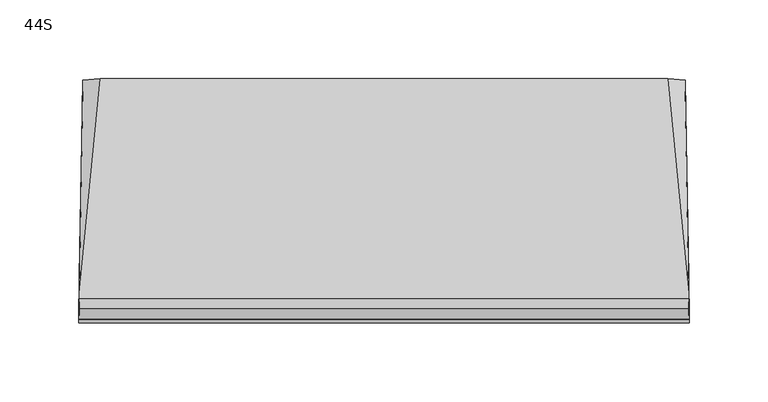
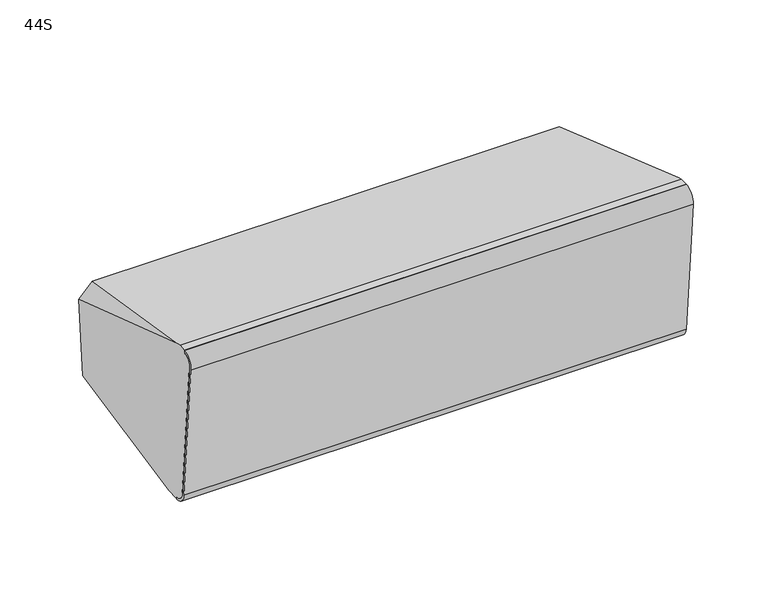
"""IFC4 building model written with IfcOpenShell, lengths in millimetres: proxy geometry, d&b xS-Series 44S Point Source : 44S."""

from ifc_helpers import new_model, si_unit, frame, origin, place, context, project, spatial, polyline, circle_curve, ellipse_curve, source, transform, mapped, element, save
from ifc_brep_helpers import plane_surface, cylinder_surface, revolved_surface, advanced_brep


def proxy_44s_00a346c1(model_context):
    return source(origin(), model_context, "Body", "AdvancedBrep", [
        advanced_brep(
        [(-193.2924342, -60.1708825, -69.5087397), (-193.2924342, -60.3414006, -67.5597089), (-193.4294708, -68.97039, -60.3191271), (-193.4294708, -78.3900458, 47.3480309), (-193.2918337, -71.1177341, 56.0148344), (-193.2918337, -71.2920456, 58.0072238), (-193.1898069, -65.3844214, 58.524074), (-193.132384, -61.9536331, 57.6051002), (-190.8800877, 73.551062, 10.8276942), (-191.0574064, 68.3781553, -48.2989), (-193.132384, -50.9035477, -68.697953), (193.2924342, -60.3414006, -67.5597089), (193.2924342, -60.1708825, -69.5087397), (193.132384, -50.9035477, -68.697953), (191.0574064, 68.3781553, -48.2989), (190.8800877, 73.551062, 10.8276942), (193.132384, -61.9536331, 57.6051002), (193.1898069, -65.3844214, 58.524074), (193.2918337, -71.2920456, 58.0072238), (193.2918337, -71.1177341, 56.0148344), (193.4294708, -78.3900458, 47.3480309), (193.4294708, -68.97039, -60.3191271), (-181.3061997, 67.4997599, -58.3390058), (181.3061997, 67.4997599, -58.3390058), (179.9289467, 74.4470346, 21.0687075), (-179.9289467, 74.4470346, 21.0687075), (-138.5, 72.1064219, -5.6846181), (-138.5, 69.8403726, -31.5856802), (-128.5, 68.9688151, -41.5476272), (-51.5, 68.9688151, -41.5476272), (-41.5, 69.8403726, -31.5856802), (-41.5, 72.1064219, -5.6846181), (-51.5, 72.9779793, 4.2773289), (-128.5, 72.9779793, 4.2773289), (-138.5, 67.1254484, -5.2488394), (-128.5, 67.9970058, 4.7131076), (-51.5, 67.9970058, 4.7131076), (-41.5, 67.1254484, -5.2488394), (-41.5, 64.8593991, -31.1499015), (-51.5, 63.9878417, -41.1118485), (-128.5, 63.9878417, -41.1118485), (-138.5, 64.8593991, -31.1499015)],
        [
            (0, 1),
            (1, 2, ellipse_curve(frame((-193.2924342, -61.0356044, -59.6249233), z_axis=(-0.999852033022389, 0.017136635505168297, 0.0014992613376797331), x_axis=(-0.017202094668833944, -0.9960472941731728, -0.08714284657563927)), 7.9662739, 7.9650952)),
            (2, 3),
            (3, 4, ellipse_curve(frame((-193.2918337, -70.4204882, 48.0452768), z_axis=(-0.999852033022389, 0.017136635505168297, 0.0014992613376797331), x_axis=(-0.017202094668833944, -0.9960472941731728, -0.08714284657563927)), 8.0011839, 8.0)),
            (4, 5),
            (5, 6),
            (6, 7),
            (7, 8),
            (8, 9),
            (9, 10),
            (10, 0),
            (11, 12),
            (12, 13),
            (13, 14),
            (14, 15),
            (15, 16),
            (16, 17),
            (17, 18),
            (18, 19),
            (19, 20, ellipse_curve(frame((193.2918337, -70.4204882, 48.0452768), z_axis=(0.9998520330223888, 0.017136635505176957, 0.0014992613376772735), x_axis=(-0.017202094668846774, 0.99604729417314, 0.0871428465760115)), 8.0011839, 8.0)),
            (20, 21),
            (21, 11, ellipse_curve(frame((193.2924342, -61.0356044, -59.6249233), z_axis=(0.9998520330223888, 0.017136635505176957, 0.0014992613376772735), x_axis=(-0.017202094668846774, 0.99604729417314, 0.0871428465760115)), 7.9662739, 7.9650952)),
            (0, 12),
            (11, 1),
            (21, 2),
            (20, 3),
            (19, 4),
            (18, 5),
            (17, 6),
            (10, 22),
            (22, 23),
            (23, 13),
            (16, 24),
            (24, 25),
            (25, 7),
            (9, 22),
            (23, 14),
            (15, 24),
            (25, 8),
            (26, 27),
            (27, 28, circle_curve(frame((-128.5, 69.8403726, -31.5856802), z_axis=(0.0, -0.9961946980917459, 0.08715574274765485), x_axis=(0.0, 0.08715574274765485, 0.9961946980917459)), 10.0)),
            (28, 29),
            (29, 30, circle_curve(frame((-51.5, 69.8403726, -31.5856802), z_axis=(0.0, -0.9961946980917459, 0.08715574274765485), x_axis=(0.0, 0.08715574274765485, 0.9961946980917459)), 10.0)),
            (30, 31),
            (31, 32, circle_curve(frame((-51.5, 72.1064219, -5.6846181), z_axis=(0.0, -0.9961946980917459, 0.08715574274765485), x_axis=(0.0, 0.08715574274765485, 0.9961946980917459)), 10.0)),
            (32, 33),
            (33, 26, circle_curve(frame((-128.5, 72.1064219, -5.6846181), z_axis=(0.0, -0.9961946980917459, 0.08715574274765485), x_axis=(0.0, 0.08715574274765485, 0.9961946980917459)), 10.0)),
            (34, 35, circle_curve(frame((-128.5, 67.1254484, -5.2488394), z_axis=(0.0, 0.9961946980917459, -0.08715574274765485), x_axis=(0.0, 0.08715574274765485, 0.9961946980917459)), 10.0)),
            (35, 36),
            (36, 37, circle_curve(frame((-51.5, 67.1254484, -5.2488394), z_axis=(0.0, 0.9961946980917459, -0.08715574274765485), x_axis=(0.0, 0.08715574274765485, 0.9961946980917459)), 10.0)),
            (37, 38),
            (38, 39, circle_curve(frame((-51.5, 64.8593991, -31.1499015), z_axis=(0.0, 0.9961946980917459, -0.08715574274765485), x_axis=(0.0, 0.08715574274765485, 0.9961946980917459)), 10.0)),
            (39, 40),
            (40, 41, circle_curve(frame((-128.5, 64.8593991, -31.1499015), z_axis=(0.0, 0.9961946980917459, -0.08715574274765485), x_axis=(0.0, 0.08715574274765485, 0.9961946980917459)), 10.0)),
            (41, 34),
            (41, 27),
            (26, 34),
            (40, 28),
            (39, 29),
            (38, 30),
            (37, 31),
            (36, 32),
            (35, 33),
        ],
        [
            plane_surface(frame((-193.8309972, -105.6486643, 91.1389233), z_axis=(-0.999852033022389, 0.017136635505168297, 0.0014992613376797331), x_axis=(0.0, 0.08715574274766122, -0.9961946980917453))),
            plane_surface(frame((190.7119283, 74.9537717, 106.9395891), z_axis=(0.9998520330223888, 0.017136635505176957, 0.0014992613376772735), x_axis=(0.0, 0.08715574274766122, -0.9961946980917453))),
            plane_surface(frame((-207.1452552, -60.1708825, -69.5087397), z_axis=(0.0, -0.9961946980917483, -0.08715574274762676), x_axis=(1.0, 0.0, 0.0))),
            cylinder_surface(frame((207.1452552, -61.0356044, -59.6249233), z_axis=(-1.0, 0.0, 0.0), x_axis=(0.0, 0.08715574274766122, -0.9961946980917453)), 7.9650952),
            plane_surface(frame((-207.1452552, -68.97039, -60.3191271), z_axis=(0.0, -0.996194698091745, -0.08715574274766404), x_axis=(1.0, 0.0, 0.0))),
            cylinder_surface(frame((207.1452552, -70.4204882, 48.0452768), z_axis=(-1.0, 0.0, 0.0), x_axis=(0.0, 0.08715574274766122, -0.9961946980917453)), 8.0),
            plane_surface(frame((-207.1452552, -71.1177341, 56.0148344), z_axis=(0.0, -0.9961946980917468, -0.08715574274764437), x_axis=(1.0, 0.0, 0.0))),
            plane_surface(frame((-207.1452552, -71.2920456, 58.0072238), z_axis=(0.0, -0.08715574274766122, 0.9961946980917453), x_axis=(1.0, 0.0, 0.0))),
            plane_surface(frame((-207.1452552, -54.2284863, -68.9888474), z_axis=(0.0, 0.08715574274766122, -0.9961946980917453), x_axis=(1.0, 0.0, 0.0))),
            plane_surface(frame((0.0, 74.4470346, 21.0687075), z_axis=(0.0, 0.2587393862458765, 0.965947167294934), x_axis=(-1.0, 0.0, 0.0))),
            plane_surface(frame((-186.6967137, 80.6989148, -50.3906107), z_axis=(-0.7053631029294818, 0.13139331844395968, -0.6965620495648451), x_axis=(0.7071067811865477, 0.06162841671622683, -0.704416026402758))),
            plane_surface(frame((186.6967137, 80.6989148, -50.3906107), z_axis=(0.7053631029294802, 0.13139331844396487, -0.6965620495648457), x_axis=(0.7071067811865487, -0.061628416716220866, 0.7044160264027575))),
            plane_surface(frame((186.6967137, 75.0368843, 14.326694), z_axis=(0.6719558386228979, 0.2516194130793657, 0.6965364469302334), x_axis=(-0.7071067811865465, -0.06162841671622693, 0.7044160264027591))),
            plane_surface(frame((-186.6967137, 75.0368843, 14.326694), z_axis=(-0.6719558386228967, 0.25161941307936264, 0.6965364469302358), x_axis=(-0.7071067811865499, 0.061628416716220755, -0.7044160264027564))),
            plane_surface(frame((-250.0, 65.9723746, -75.7970998), z_axis=(0.0, 0.9961946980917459, -0.08715574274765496), x_axis=(1.0, 0.0, 0.0))),
            plane_surface(frame((-138.5, 62.5187864, -57.9032271), z_axis=(0.0, 0.9961946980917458, -0.08715574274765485), x_axis=(0.0, -0.08715574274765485, -0.9961946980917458))),
            plane_surface(frame((-138.5, 67.1254484, -5.2488394), z_axis=(1.0, 0.0, 0.0), x_axis=(0.0, 0.9961946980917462, -0.08715574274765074))),
            revolved_surface(polyline([(-128.5, 65.73095652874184, -21.187954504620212), (-128.5, 70.71193002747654, -21.62373321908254)]), (-128.5, 69.8403726, -31.5856802), (0.0, -0.9961946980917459, 0.08715574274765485)),
            plane_surface(frame((-128.5, 63.9878417, -41.1118485), z_axis=(0.0, 0.08715574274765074, 0.9961946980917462), x_axis=(0.0, 0.9961946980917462, -0.08715574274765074))),
            revolved_surface(polyline([(-51.5, 65.73095652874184, -21.187954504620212), (-51.5, 70.71193002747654, -21.62373321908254)]), (-51.5, 69.8403726, -31.5856802), (0.0, -0.9961946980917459, 0.08715574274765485)),
            plane_surface(frame((-41.5, 64.8593991, -31.1499015), z_axis=(-1.0, 0.0, 0.0), x_axis=(0.0, 0.9961946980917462, -0.08715574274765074))),
            revolved_surface(polyline([(-51.5, 67.99700579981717, 4.713107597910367), (-51.5, 72.97797932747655, 4.277328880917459)]), (-51.5, 72.1064219, -5.6846181), (0.0, -0.9961946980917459, 0.08715574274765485)),
            plane_surface(frame((-51.5, 67.9970058, 4.7131076), z_axis=(0.0, -0.08715574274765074, -0.9961946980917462), x_axis=(0.0, 0.9961946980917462, -0.08715574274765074))),
            revolved_surface(polyline([(-128.5, 67.99700579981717, 4.713107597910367), (-128.5, 72.97797932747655, 4.277328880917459)]), (-128.5, 72.1064219, -5.6846181), (0.0, -0.9961946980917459, 0.08715574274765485)),
        ],
        [
            (0, [[1, 2, 3, 4, 5, 6, 7, 8, 9, 10, 11]]),
            (1, [[12, 13, 14, 15, 16, 17, 18, 19, 20, 21, 22]]),
            (2, [[23, -12, 24, -1]]),
            (3, [[-24, -22, 25, -2]]),
            (4, [[-25, -21, 26, -3]]),
            (5, [[-26, -20, 27, -4]]),
            (6, [[-27, -19, 28, -5]]),
            (7, [[-28, -18, 29, -6]]),
            (8, [[-23, -11, 30, 31, 32, -13]]),
            (9, [[-29, -17, 33, 34, 35, -7]]),
            (10, [[-30, -10, 36]]),
            (11, [[-32, 37, -14]]),
            (12, [[-33, -16, 38]]),
            (13, [[-35, 39, -8]]),
            (14, [[-31, -36, -9, -39, -34, -38, -15, -37], [40, 41, 42, 43, 44, 45, 46, 47]]),
            (15, [[48, 49, 50, 51, 52, 53, 54, 55]]),
            (16, [[-55, 56, -40, 57]]),
            (17, [[-54, 58, -41, -56]]),
            (18, [[-53, 59, -42, -58]]),
            (19, [[-52, 60, -43, -59]]),
            (20, [[-51, 61, -44, -60]]),
            (21, [[-50, 62, -45, -61]]),
            (22, [[-49, 63, -46, -62]]),
            (23, [[-48, -57, -47, -63]]),
        ],
    ),
        advanced_brep(
        [(-193.4294708, -78.3900458, 47.3480309), (-193.4294708, -68.97039, -60.3191271), (-193.2924342, -60.3414006, -67.5597089), (-193.2924342, -60.1708825, -69.5087397), (-193.4644806, -71.0043869, -60.4183501), (-193.4644806, -80.4172072, 47.1706772), (-193.2918337, -71.2950878, 58.0419958), (-193.2918337, -71.1177341, 56.0148344), (193.4294708, -68.97039, -60.3191271), (193.4294708, -78.3900458, 47.3480309), (193.2918337, -71.1177341, 56.0148344), (193.2918337, -71.2950878, 58.0419958), (193.4644806, -80.4172072, 47.1706772), (193.4644806, -71.0043869, -60.4183501), (193.2924342, -60.1708825, -69.5087397), (193.2924342, -60.3414006, -67.5597089)],
        [
            (0, 1),
            (1, 2, ellipse_curve(frame((-193.2924342, -61.0356044, -59.6249233), z_axis=(0.999852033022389, -0.017136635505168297, -0.0014992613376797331), x_axis=(0.017202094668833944, 0.9960472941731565, 0.08714284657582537)), 7.9662739, 7.9650952)),
            (2, 3),
            (3, 4, ellipse_curve(frame((-193.2924342, -61.04244, -59.5467927), z_axis=(-0.999852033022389, 0.017136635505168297, 0.0014992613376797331), x_axis=(-0.017202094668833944, -0.9960472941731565, -0.08714284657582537)), 10.0014799, 10.0)),
            (4, 5),
            (5, 6, ellipse_curve(frame((-193.2918337, -70.4204882, 48.0452768), z_axis=(-0.999852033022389, 0.017136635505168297, 0.0014992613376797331), x_axis=(-0.017202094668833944, -0.9960472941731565, -0.08714284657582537)), 10.0363899, 10.0349048)),
            (6, 7),
            (7, 0, ellipse_curve(frame((-193.2918337, -70.4204882, 48.0452768), z_axis=(0.999852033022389, -0.017136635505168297, -0.0014992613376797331), x_axis=(0.017202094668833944, 0.9960472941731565, 0.08714284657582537)), 8.0011839, 8.0)),
            (8, 9),
            (9, 10, ellipse_curve(frame((193.2918337, -70.4204882, 48.0452768), z_axis=(-0.9998520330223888, -0.017136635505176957, -0.0014992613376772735), x_axis=(0.017202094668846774, -0.9960472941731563, -0.0871428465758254)), 8.0011839, 8.0)),
            (10, 11),
            (11, 12, ellipse_curve(frame((193.2918337, -70.4204882, 48.0452768), z_axis=(0.9998520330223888, 0.017136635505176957, 0.0014992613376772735), x_axis=(-0.017202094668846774, 0.9960472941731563, 0.0871428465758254)), 10.0363899, 10.0349048)),
            (12, 13),
            (13, 14, ellipse_curve(frame((193.2924342, -61.04244, -59.5467927), z_axis=(0.9998520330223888, 0.017136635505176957, 0.0014992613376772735), x_axis=(-0.017202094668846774, 0.9960472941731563, 0.0871428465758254)), 10.0014799, 10.0)),
            (14, 15),
            (15, 8, ellipse_curve(frame((193.2924342, -61.0356044, -59.6249233), z_axis=(-0.9998520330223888, -0.017136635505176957, -0.0014992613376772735), x_axis=(0.017202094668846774, -0.9960472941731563, -0.0871428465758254)), 7.9662739, 7.9650952)),
            (0, 9),
            (8, 1),
            (15, 2),
            (14, 3),
            (13, 4),
            (12, 5),
            (11, 6),
            (10, 7),
        ],
        [
            plane_surface(frame((-193.8309972, -105.6486643, 91.1389233), z_axis=(-0.999852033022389, 0.017136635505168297, 0.0014992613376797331), x_axis=(0.0, 0.08715574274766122, -0.9961946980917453))),
            plane_surface(frame((190.7119283, 74.9537717, 106.9395891), z_axis=(0.9998520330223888, 0.017136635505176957, 0.0014992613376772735), x_axis=(0.0, 0.08715574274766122, -0.9961946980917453))),
            plane_surface(frame((-202.5, -78.3900458, 47.3480309), z_axis=(0.0, 0.996194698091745, 0.08715574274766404), x_axis=(1.0, 0.0, 0.0))),
            revolved_surface(polyline([(193.4294708, -61.72980818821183, -51.69013769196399), (-193.4294708, -61.72980818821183, -51.69013769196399)]), (202.5, -61.0356044, -59.6249233), (1.0, 0.0, 0.0)),
            plane_surface(frame((-202.5, -60.3414006, -67.5597089), z_axis=(0.0, 0.9961946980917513, 0.0871557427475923), x_axis=(1.0, 0.0, 0.0))),
            cylinder_surface(frame((202.5, -61.04244, -59.5467927), z_axis=(-1.0, 0.0, 0.0), x_axis=(0.0, -0.08715574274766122, 0.9961946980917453)), 10.0),
            plane_surface(frame((-202.5, -71.0043869, -60.4183501), z_axis=(0.0, -0.996194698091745, -0.08715574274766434), x_axis=(1.0, 0.0, 0.0))),
            cylinder_surface(frame((202.5, -70.4204882, 48.0452768), z_axis=(-1.0, 0.0, 0.0), x_axis=(0.0, -0.08715574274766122, 0.9961946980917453)), 10.0349048),
            plane_surface(frame((-202.5, -71.2950878, 58.0419958), z_axis=(0.0, 0.9961946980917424, 0.08715574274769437), x_axis=(1.0, 0.0, 0.0))),
            revolved_surface(polyline([(193.42947082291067, -71.11773414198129, 56.014834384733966), (-193.42947082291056, -71.11773414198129, 56.014834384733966)]), (202.5, -70.4204882, 48.0452768), (1.0, 0.0, 0.0)),
        ],
        [
            (0, [[1, 2, 3, 4, 5, 6, 7, 8]]),
            (1, [[9, 10, 11, 12, 13, 14, 15, 16]]),
            (2, [[17, -9, 18, -1]]),
            (3, [[-18, -16, 19, -2]]),
            (4, [[-19, -15, 20, -3]]),
            (5, [[-20, -14, 21, -4]]),
            (6, [[-21, -13, 22, -5]]),
            (7, [[-22, -12, 23, -6]]),
            (8, [[-23, -11, 24, -7]]),
            (9, [[-17, -8, -24, -10]]),
        ],
    ),
        advanced_brep(
        [(-193.4294708, -78.3900458, 47.3480309), (-193.4294708, -68.97039, -60.3191271), (-193.2924342, -60.3414006, -67.5597089), (-193.2924342, -60.1708825, -69.5087397), (-193.4644806, -71.0043869, -60.4183501), (-193.4644806, -80.4172072, 47.1706772), (-193.2918337, -71.2950878, 58.0419958), (-193.2918337, -71.1177341, 56.0148344), (193.4294708, -68.97039, -60.3191271), (193.4294708, -78.3900458, 47.3480309), (193.2918337, -71.1177341, 56.0148344), (193.2918337, -71.2950878, 58.0419958), (193.4644806, -80.4172072, 47.1706772), (193.4644806, -71.0043869, -60.4183501), (193.2924342, -60.1708825, -69.5087397), (193.2924342, -60.3414006, -67.5597089)],
        [
            (0, 1),
            (1, 2, ellipse_curve(frame((-193.2924342, -61.0356044, -59.6249233), z_axis=(0.999852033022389, -0.017136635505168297, -0.0014992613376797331), x_axis=(0.017202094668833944, 0.9960472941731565, 0.08714284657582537)), 7.9662739, 7.9650952)),
            (2, 3),
            (3, 4, ellipse_curve(frame((-193.2924342, -61.04244, -59.5467927), z_axis=(-0.999852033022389, 0.017136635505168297, 0.0014992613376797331), x_axis=(-0.017202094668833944, -0.9960472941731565, -0.08714284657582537)), 10.0014799, 10.0)),
            (4, 5),
            (5, 6, ellipse_curve(frame((-193.2918337, -70.4204882, 48.0452768), z_axis=(-0.999852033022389, 0.017136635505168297, 0.0014992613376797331), x_axis=(-0.017202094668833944, -0.9960472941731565, -0.08714284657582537)), 10.0363899, 10.0349048)),
            (6, 7),
            (7, 0, ellipse_curve(frame((-193.2918337, -70.4204882, 48.0452768), z_axis=(0.999852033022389, -0.017136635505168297, -0.0014992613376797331), x_axis=(0.017202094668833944, 0.9960472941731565, 0.08714284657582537)), 8.0011839, 8.0)),
            (8, 9),
            (9, 10, ellipse_curve(frame((193.2918337, -70.4204882, 48.0452768), z_axis=(-0.9998520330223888, -0.017136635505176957, -0.0014992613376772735), x_axis=(0.017202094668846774, -0.9960472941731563, -0.0871428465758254)), 8.0011839, 8.0)),
            (10, 11),
            (11, 12, ellipse_curve(frame((193.2918337, -70.4204882, 48.0452768), z_axis=(0.9998520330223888, 0.017136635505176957, 0.0014992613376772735), x_axis=(-0.017202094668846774, 0.9960472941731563, 0.0871428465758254)), 10.0363899, 10.0349048)),
            (12, 13),
            (13, 14, ellipse_curve(frame((193.2924342, -61.04244, -59.5467927), z_axis=(0.9998520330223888, 0.017136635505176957, 0.0014992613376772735), x_axis=(-0.017202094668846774, 0.9960472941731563, 0.0871428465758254)), 10.0014799, 10.0)),
            (14, 15),
            (15, 8, ellipse_curve(frame((193.2924342, -61.0356044, -59.6249233), z_axis=(-0.9998520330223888, -0.017136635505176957, -0.0014992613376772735), x_axis=(0.017202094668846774, -0.9960472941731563, -0.0871428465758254)), 7.9662739, 7.9650952)),
            (0, 9),
            (8, 1),
            (15, 2),
            (14, 3),
            (13, 4),
            (12, 5),
            (11, 6),
            (10, 7),
        ],
        [
            plane_surface(frame((-193.8309972, -105.6486643, 91.1389233), z_axis=(-0.999852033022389, 0.017136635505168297, 0.0014992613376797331), x_axis=(0.0, 0.08715574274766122, -0.9961946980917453))),
            plane_surface(frame((190.7119283, 74.9537717, 106.9395891), z_axis=(0.9998520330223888, 0.017136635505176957, 0.0014992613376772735), x_axis=(0.0, 0.08715574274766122, -0.9961946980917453))),
            plane_surface(frame((-202.5, -78.3900458, 47.3480309), z_axis=(0.0, 0.996194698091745, 0.08715574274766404), x_axis=(1.0, 0.0, 0.0))),
            revolved_surface(polyline([(193.4294708, -61.72980818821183, -51.69013769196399), (-193.4294708, -61.72980818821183, -51.69013769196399)]), (202.5, -61.0356044, -59.6249233), (1.0, 0.0, 0.0)),
            plane_surface(frame((-202.5, -60.3414006, -67.5597089), z_axis=(0.0, 0.9961946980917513, 0.0871557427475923), x_axis=(1.0, 0.0, 0.0))),
            cylinder_surface(frame((202.5, -61.04244, -59.5467927), z_axis=(-1.0, 0.0, 0.0), x_axis=(0.0, -0.08715574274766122, 0.9961946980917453)), 10.0),
            plane_surface(frame((-202.5, -71.0043869, -60.4183501), z_axis=(0.0, -0.996194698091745, -0.08715574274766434), x_axis=(1.0, 0.0, 0.0))),
            cylinder_surface(frame((202.5, -70.4204882, 48.0452768), z_axis=(-1.0, 0.0, 0.0), x_axis=(0.0, -0.08715574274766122, 0.9961946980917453)), 10.0349048),
            plane_surface(frame((-202.5, -71.2950878, 58.0419958), z_axis=(0.0, 0.9961946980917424, 0.08715574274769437), x_axis=(1.0, 0.0, 0.0))),
            revolved_surface(polyline([(193.42947082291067, -71.11773414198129, 56.014834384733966), (-193.42947082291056, -71.11773414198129, 56.014834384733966)]), (202.5, -70.4204882, 48.0452768), (1.0, 0.0, 0.0)),
        ],
        [
            (0, [[1, 2, 3, 4, 5, 6, 7, 8]]),
            (1, [[9, 10, 11, 12, 13, 14, 15, 16]]),
            (2, [[17, -9, 18, -1]]),
            (3, [[-18, -16, 19, -2]]),
            (4, [[-19, -15, 20, -3]]),
            (5, [[-20, -14, 21, -4]]),
            (6, [[-21, -13, 22, -5]]),
            (7, [[-22, -12, 23, -6]]),
            (8, [[-23, -11, 24, -7]]),
            (9, [[-17, -8, -24, -10]]),
        ],
    ),
    ])


if __name__ == "__main__":
    model = new_model("IFC4")
    model_context = context("Model", 3, world=origin())
    ifc_project = project(units=[si_unit("LENGTHUNIT", "METRE", prefix="MILLI")], contexts=[model_context])
    site = spatial("IfcSite", under=ifc_project)
    building = spatial("IfcBuilding", under=site)
    placement = place(None, origin())
    proxy_44s_shape = proxy_44s_00a346c1(model_context)
    element("IfcBuildingElementProxy", 1, Name="d&b xS-Series 44S Point Source : 44S", ObjectType="d&b xS-Series 44S Point Source : 44S", at=placement, inside=building, context=model_context, shape_type="MappedRepresentation", body=[
        mapped(proxy_44s_shape, transform((0.0, 0.0, 0.0), x_axis=(1.0, 0.0, 0.0), y_axis=(0.0, 1.0, 0.0), z_axis=(0.0, 0.0, 1.0))),
    ])
    save(model, "model.ifc")
